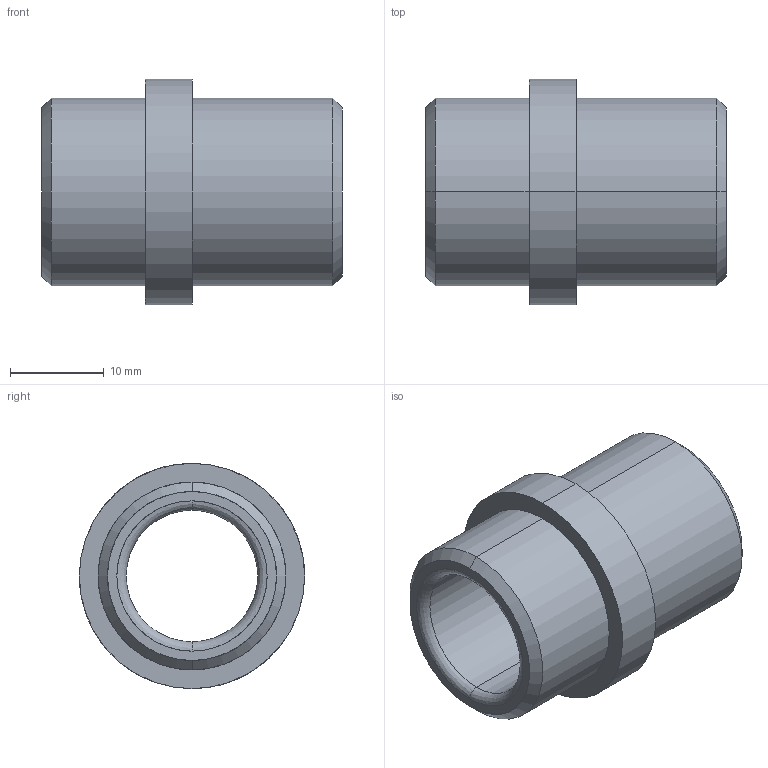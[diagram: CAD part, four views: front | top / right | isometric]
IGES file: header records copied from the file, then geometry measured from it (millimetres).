
Start section: START RECORD GO HERE.
Global section: file name: 354-14X32.igs; native system: DASSAULT SYSTEMES CATIA V5 R20 - www.3ds.com; preprocessor: CATIA Version 5 Release 20 ; author: Utente; organization: NB04-ASUS; date: 20210421.104927; units: millimetre
Bounding box: 32 x 24 x 24 mm (x, y, z)
Surface area: 3964.7 mm2 (no closed solid volume)
Topology: 0 solids, 0 shells, 20 faces, 128 edges, 128 vertices
Faces by surface type: revolution 16, plane 4
